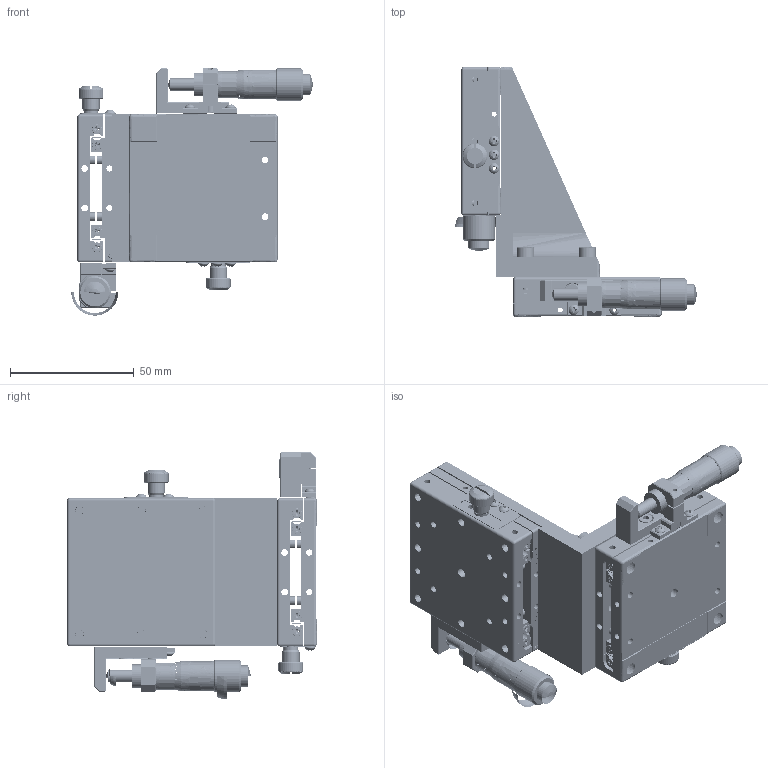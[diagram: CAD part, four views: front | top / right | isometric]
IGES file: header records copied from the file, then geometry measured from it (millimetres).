
Start section: SolidWorks IGES file using analytic representation for surfaces
Bounding box: 97.7 x 101 x 99.98 mm (x, y, z)
Surface area: 71229.5 mm2 (no closed solid volume)
Topology: 0 solids, 0 shells, 1569 faces, 30203 edges, 30129 vertices
Faces by surface type: bspline 931, revolution 638
